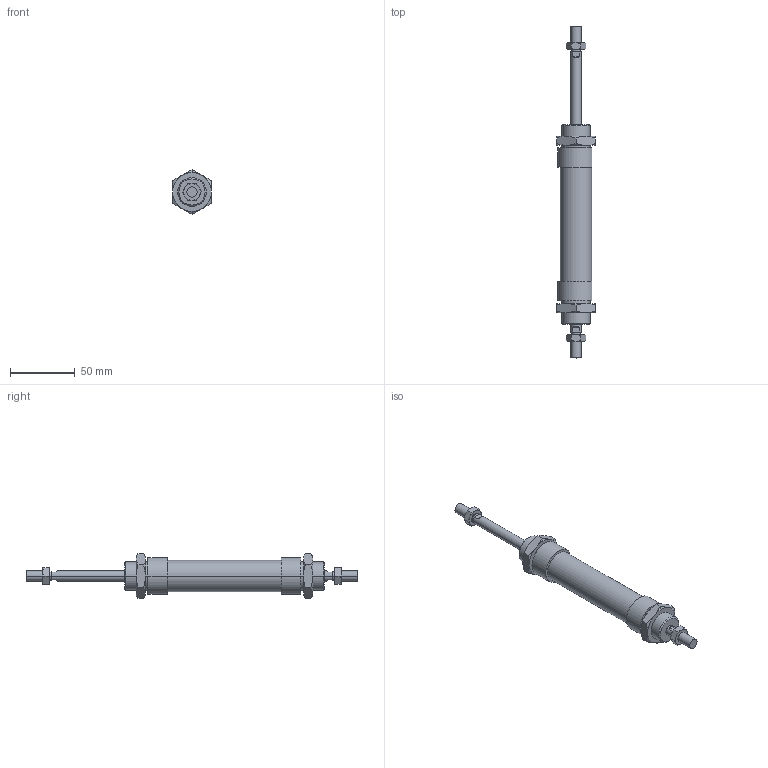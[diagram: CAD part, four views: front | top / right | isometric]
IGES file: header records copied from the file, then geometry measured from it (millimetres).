
Global section: file name: No Iges File Name specified; native system: AutoDesk Inventor R6.0; preprocessor: AutoDesk Inventor Iges Exporter R6.0; author: No Author specified; organization: No Organization specified; date: 20030403.072301; units: millimetre
Bounding box: 30 x 256 x 34.64 mm (x, y, z)
Volume: 82552.2 mm3; surface area: 28724 mm2
Topology: 6 solids, 6 shells, 186 faces, 414 edges, 244 vertices
Faces by surface type: cone 68, plane 60, bspline 32, cylinder 20, revolution 6
